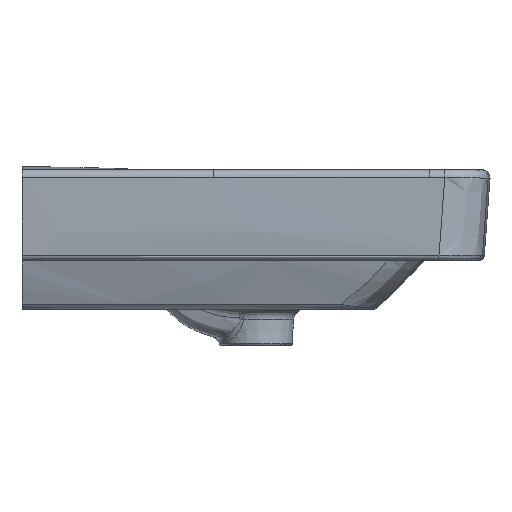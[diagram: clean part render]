
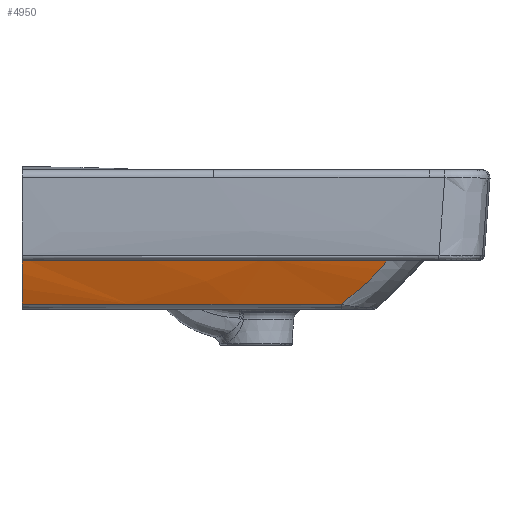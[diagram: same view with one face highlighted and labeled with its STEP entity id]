
A CAD part, left-side view. The second image highlights one B-rep face of the part: STEP entity #4950.
In plain terms, the highlighted free-form (B-spline) face has degree [2, 2] with [3, 3] control points.
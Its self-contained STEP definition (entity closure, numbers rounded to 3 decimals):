
#31=(
BOUNDED_SURFACE()
B_SPLINE_SURFACE(2,2,((#63840,#63841,#63842),(#63843,#63844,#63845),(#63846,
#63847,#63848)),.UNSPECIFIED.,.F.,.F.,.F.)
B_SPLINE_SURFACE_WITH_KNOTS((3,3),(3,3),(0.,0.172),(0.,0.002),
 .UNSPECIFIED.)
GEOMETRIC_REPRESENTATION_ITEM()
RATIONAL_B_SPLINE_SURFACE(((1.,1.,1.),(0.996,
0.996,0.996),(1.,1.,1.)))
REPRESENTATION_ITEM('')
SURFACE()
);
#397=CIRCLE('',#5203,280.899);
#487=CIRCLE('',#5344,157593.198);
#488=CIRCLE('',#5345,157607.513);
#952=FACE_OUTER_BOUND('',#1271,.T.);
#1271=EDGE_LOOP('',(#3871,#3872,#3873,#3874));
#1645=B_SPLINE_CURVE_WITH_KNOTS('',3,(#63850,#63851,#63852,#63853,#63854,
#63855,#63856,#63857,#63858,#63859,#63860,#63861,#63862,#63863,#63864,#63865,
#63866,#63867,#63868,#63869,#63870,#63871,#63872,#63873,#63874,#63875,#63876,
#63877),.UNSPECIFIED.,.F.,.F.,(4,2,2,2,2,2,2,2,2,2,2,2,2,4),(0.,
0.074,0.156,0.238,0.321,
0.33,0.416,0.504,0.585,0.669,
0.755,0.84,0.95,1.),
 .UNSPECIFIED.);
#1943=VERTEX_POINT('',#31197);
#1944=VERTEX_POINT('',#31199);
#2082=VERTEX_POINT('',#63837);
#2083=VERTEX_POINT('',#63849);
#2452=EDGE_CURVE('',#1943,#1944,#397,.T.);
#2702=EDGE_CURVE('',#1943,#2082,#487,.T.);
#2703=EDGE_CURVE('',#2082,#2083,#1645,.T.);
#2704=EDGE_CURVE('',#1944,#2083,#488,.T.);
#3871=ORIENTED_EDGE('',*,*,#2702,.T.);
#3872=ORIENTED_EDGE('',*,*,#2703,.T.);
#3873=ORIENTED_EDGE('',*,*,#2704,.F.);
#3874=ORIENTED_EDGE('',*,*,#2452,.F.);
#4950=ADVANCED_FACE('',(#952),#31,.F.);
#5203=AXIS2_PLACEMENT_3D('',#31200,#5741,#5742);
#5344=AXIS2_PLACEMENT_3D('',#63839,#6052,#6053);
#5345=AXIS2_PLACEMENT_3D('',#63878,#6054,#6055);
#5741=DIRECTION('center_axis',(0.,1.,0.));
#5742=DIRECTION('ref_axis',(-0.972,0.,-0.234));
#6052=DIRECTION('center_axis',(0.,0.,
1.));
#6053=DIRECTION('ref_axis',(-1.,0.,0.));
#6054=DIRECTION('center_axis',(0.,0.,
1.));
#6055=DIRECTION('ref_axis',(-1.,0.,0.));
#31197=CARTESIAN_POINT('',(-210.948,0.,720.882));
#31199=CARTESIAN_POINT('',(-225.263,0.,764.348));
#31200=CARTESIAN_POINT('Origin',(47.811,0.,
830.191));
#63837=CARTESIAN_POINT('',(-210.642,-300.384,720.882));
#63839=CARTESIAN_POINT('Origin',(157382.25,10.,720.884));
#63840=CARTESIAN_POINT('Ctrl Pts',(-225.135,-352.162,
765.556));
#63841=CARTESIAN_POINT('Ctrl Pts',(-225.548,-172.629,
765.556));
#63842=CARTESIAN_POINT('Ctrl Pts',(-225.551,6.905,765.556));
#63843=CARTESIAN_POINT('Ctrl Pts',(-219.565,-352.149,
741.997));
#63844=CARTESIAN_POINT('Ctrl Pts',(-219.978,-172.622,
741.997));
#63845=CARTESIAN_POINT('Ctrl Pts',(-219.981,6.905,741.997));
#63846=CARTESIAN_POINT('Ctrl Pts',(-210.046,-352.127,
719.739));
#63847=CARTESIAN_POINT('Ctrl Pts',(-210.459,-172.611,
719.739));
#63848=CARTESIAN_POINT('Ctrl Pts',(-210.462,6.905,719.739));
#63849=CARTESIAN_POINT('',(-224.863,-345.256,764.348));
#63850=CARTESIAN_POINT('Ctrl Pts',(-210.642,-300.384,
720.882));
#63851=CARTESIAN_POINT('Ctrl Pts',(-211.143,-301.967,
722.075));
#63852=CARTESIAN_POINT('Ctrl Pts',(-211.63,-303.507,723.259));
#63853=CARTESIAN_POINT('Ctrl Pts',(-212.625,-306.649,
725.722));
#63854=CARTESIAN_POINT('Ctrl Pts',(-213.13,-308.244,
727.));
#63855=CARTESIAN_POINT('Ctrl Pts',(-214.115,-311.35,
729.544));
#63856=CARTESIAN_POINT('Ctrl Pts',(-214.594,-312.862,
730.81));
#63857=CARTESIAN_POINT('Ctrl Pts',(-215.529,-315.811,
733.334));
#63858=CARTESIAN_POINT('Ctrl Pts',(-215.984,-317.247,
734.592));
#63859=CARTESIAN_POINT('Ctrl Pts',(-216.474,-318.792,735.975));
#63860=CARTESIAN_POINT('Ctrl Pts',(-216.522,-318.944,
736.111));
#63861=CARTESIAN_POINT('Ctrl Pts',(-217.028,-320.538,
737.545));
#63862=CARTESIAN_POINT('Ctrl Pts',(-217.47,-321.933,
738.831));
#63863=CARTESIAN_POINT('Ctrl Pts',(-218.333,-324.654,
741.396));
#63864=CARTESIAN_POINT('Ctrl Pts',(-218.753,-325.978,742.675));
#63865=CARTESIAN_POINT('Ctrl Pts',(-219.535,-328.443,
745.115));
#63866=CARTESIAN_POINT('Ctrl Pts',(-219.899,-329.591,
746.278));
#63867=CARTESIAN_POINT('Ctrl Pts',(-220.617,-331.853,
748.621));
#63868=CARTESIAN_POINT('Ctrl Pts',(-220.969,-332.965,
749.8));
#63869=CARTESIAN_POINT('Ctrl Pts',(-221.659,-335.143,
752.164));
#63870=CARTESIAN_POINT('Ctrl Pts',(-221.997,-336.206,
753.349));
#63871=CARTESIAN_POINT('Ctrl Pts',(-222.649,-338.264,
755.696));
#63872=CARTESIAN_POINT('Ctrl Pts',(-222.964,-339.258,
756.859));
#63873=CARTESIAN_POINT('Ctrl Pts',(-223.659,-341.453,
759.492));
#63874=CARTESIAN_POINT('Ctrl Pts',(-224.032,-342.632,
760.956));
#63875=CARTESIAN_POINT('Ctrl Pts',(-224.551,-344.27,
763.055));
#63876=CARTESIAN_POINT('Ctrl Pts',(-224.708,-344.768,
763.703));
#63877=CARTESIAN_POINT('Ctrl Pts',(-224.863,-345.256,
764.348));
#63878=CARTESIAN_POINT('Origin',(157382.25,10.,764.966));
